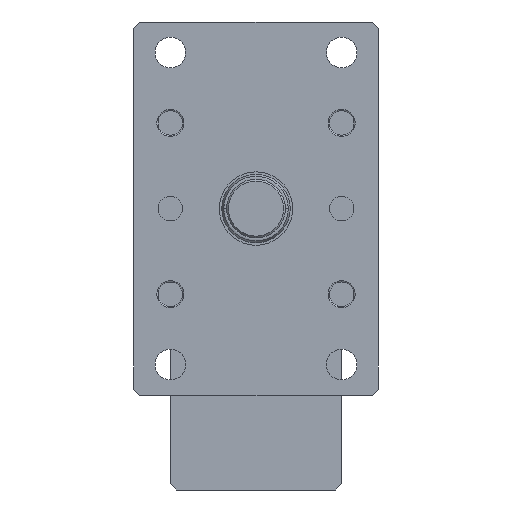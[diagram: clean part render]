
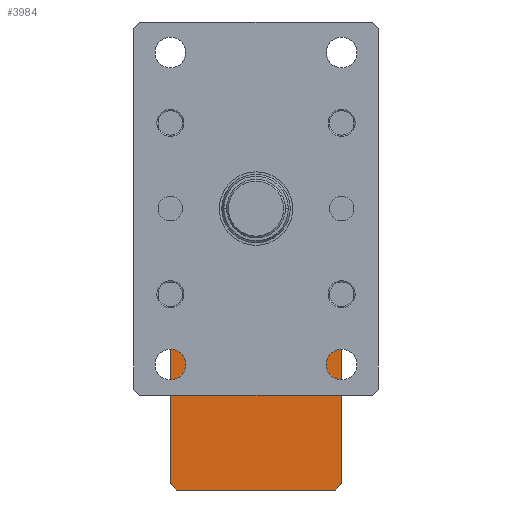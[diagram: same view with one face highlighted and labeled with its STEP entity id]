
A CAD part, left-side view. The second image highlights one B-rep face of the part: STEP entity #3984.
In plain terms, the highlighted planar face has unit normal (-1, 0, 0).
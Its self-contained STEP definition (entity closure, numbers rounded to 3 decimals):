
#144 = EDGE_CURVE ( 'NONE', #6634, #3247, #4108, .T. ) ;
#322 = DIRECTION ( 'NONE',  ( 0., 0.707, -0.707 ) ) ;
#415 = CARTESIAN_POINT ( 'NONE',  ( 427.5, -65., -230. ) ) ;
#420 = VECTOR ( 'NONE', #1848, 1000. ) ;
#477 = EDGE_CURVE ( 'NONE', #7297, #3712, #3126, .T. ) ;
#574 = VECTOR ( 'NONE', #7222, 1000. ) ;
#686 = DIRECTION ( 'NONE',  ( 0., 0.707, 0.707 ) ) ;
#821 = ORIENTED_EDGE ( 'NONE', *, *, #1866, .T. ) ;
#929 = CARTESIAN_POINT ( 'NONE',  ( 427.5, -70., -225. ) ) ;
#939 = CARTESIAN_POINT ( 'NONE',  ( 427.5, 65., -230. ) ) ;
#1074 = CARTESIAN_POINT ( 'NONE',  ( 427.5, 70., -95. ) ) ;
#1251 = VECTOR ( 'NONE', #3366, 1000. ) ;
#1496 = DIRECTION ( 'NONE',  ( 0., 0., 1. ) ) ;
#1705 = CARTESIAN_POINT ( 'NONE',  ( 427.5, 70., -230. ) ) ;
#1822 = CARTESIAN_POINT ( 'NONE',  ( 427.5, 70., -225. ) ) ;
#1825 = ORIENTED_EDGE ( 'NONE', *, *, #4404, .F. ) ;
#1848 = DIRECTION ( 'NONE',  ( 0., -0.707, -0.707 ) ) ;
#1866 = EDGE_CURVE ( 'NONE', #6052, #3908, #5718, .T. ) ;
#2411 = EDGE_CURVE ( 'NONE', #8204, #7297, #5276, .T. ) ;
#3126 = LINE ( 'NONE', #6084, #1251 ) ;
#3136 = CARTESIAN_POINT ( 'NONE',  ( 427.5, -70., -95. ) ) ;
#3247 = VERTEX_POINT ( 'NONE', #929 ) ;
#3366 = DIRECTION ( 'NONE',  ( 0., 1., 0. ) ) ;
#3634 = CARTESIAN_POINT ( 'NONE',  ( 427.5, 70., -230. ) ) ;
#3638 = LINE ( 'NONE', #7165, #574 ) ;
#3712 = VERTEX_POINT ( 'NONE', #4243 ) ;
#3814 = DIRECTION ( 'NONE',  ( 1., 0., 0. ) ) ;
#3908 = VERTEX_POINT ( 'NONE', #939 ) ;
#3984 = ADVANCED_FACE ( 'NONE', ( #7116 ), #7944, .F. ) ;
#4062 = VERTEX_POINT ( 'NONE', #1074 ) ;
#4108 = LINE ( 'NONE', #7054, #7562 ) ;
#4138 = ORIENTED_EDGE ( 'NONE', *, *, #144, .T. ) ;
#4243 = CARTESIAN_POINT ( 'NONE',  ( 427.5, 65., -90. ) ) ;
#4404 = EDGE_CURVE ( 'NONE', #6052, #4062, #7102, .T. ) ;
#4675 = AXIS2_PLACEMENT_3D ( 'NONE', #1705, #3814, #8634 ) ;
#5153 = CARTESIAN_POINT ( 'NONE',  ( 427.5, 70., -95. ) ) ;
#5246 = VECTOR ( 'NONE', #1496, 1000. ) ;
#5276 = LINE ( 'NONE', #3136, #5709 ) ;
#5350 = CARTESIAN_POINT ( 'NONE',  ( 427.5, -65., -90. ) ) ;
#5641 = CARTESIAN_POINT ( 'NONE',  ( 427.5, 70., -230. ) ) ;
#5709 = VECTOR ( 'NONE', #686, 1000. ) ;
#5718 = LINE ( 'NONE', #5985, #420 ) ;
#5985 = CARTESIAN_POINT ( 'NONE',  ( 427.5, 65., -230. ) ) ;
#6052 = VERTEX_POINT ( 'NONE', #1822 ) ;
#6084 = CARTESIAN_POINT ( 'NONE',  ( 427.5, 70., -90. ) ) ;
#6508 = ORIENTED_EDGE ( 'NONE', *, *, #477, .T. ) ;
#6538 = LINE ( 'NONE', #3634, #6751 ) ;
#6634 = VERTEX_POINT ( 'NONE', #415 ) ;
#6722 = ORIENTED_EDGE ( 'NONE', *, *, #7125, .T. ) ;
#6732 = ORIENTED_EDGE ( 'NONE', *, *, #7143, .T. ) ;
#6751 = VECTOR ( 'NONE', #8455, 1000. ) ;
#7054 = CARTESIAN_POINT ( 'NONE',  ( 427.5, -65., -230. ) ) ;
#7096 = LINE ( 'NONE', #5153, #8704 ) ;
#7102 = LINE ( 'NONE', #5641, #5246 ) ;
#7116 = FACE_OUTER_BOUND ( 'NONE', #7737, .T. ) ;
#7125 = EDGE_CURVE ( 'NONE', #3247, #8204, #3638, .T. ) ;
#7143 = EDGE_CURVE ( 'NONE', #3712, #4062, #7096, .T. ) ;
#7165 = CARTESIAN_POINT ( 'NONE',  ( 427.5, -70., -230. ) ) ;
#7222 = DIRECTION ( 'NONE',  ( 0., 0., 1. ) ) ;
#7297 = VERTEX_POINT ( 'NONE', #5350 ) ;
#7468 = CARTESIAN_POINT ( 'NONE',  ( 427.5, -70., -95. ) ) ;
#7562 = VECTOR ( 'NONE', #8436, 1000. ) ;
#7737 = EDGE_LOOP ( 'NONE', ( #6722, #7875, #6508, #6732, #1825, #821, #8575, #4138 ) ) ;
#7839 = EDGE_CURVE ( 'NONE', #6634, #3908, #6538, .T. ) ;
#7875 = ORIENTED_EDGE ( 'NONE', *, *, #2411, .T. ) ;
#7944 = PLANE ( 'NONE',  #4675 ) ;
#8204 = VERTEX_POINT ( 'NONE', #7468 ) ;
#8436 = DIRECTION ( 'NONE',  ( 0., -0.707, 0.707 ) ) ;
#8455 = DIRECTION ( 'NONE',  ( 0., 1., 0. ) ) ;
#8575 = ORIENTED_EDGE ( 'NONE', *, *, #7839, .F. ) ;
#8634 = DIRECTION ( 'NONE',  ( 0., 1., 0. ) ) ;
#8704 = VECTOR ( 'NONE', #322, 1000. ) ;
